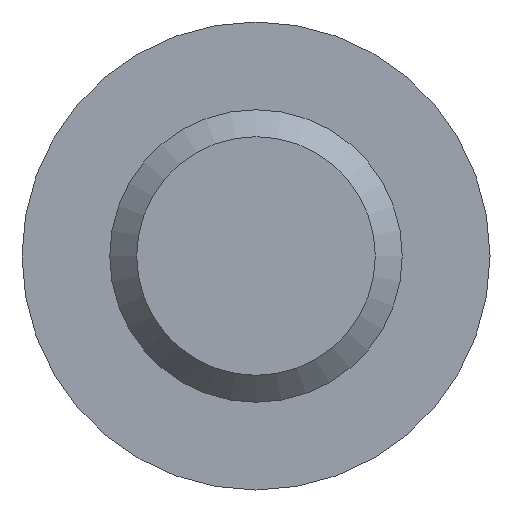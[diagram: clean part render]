
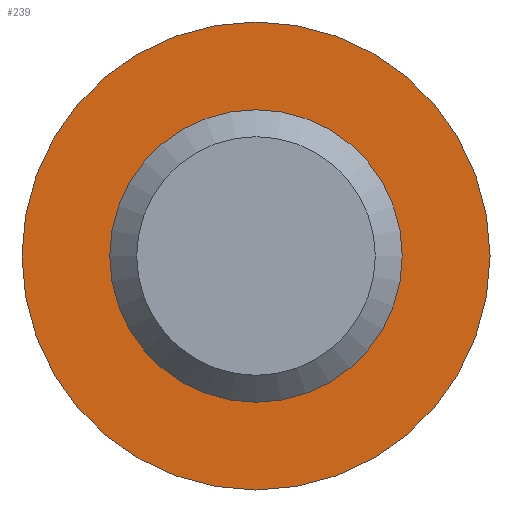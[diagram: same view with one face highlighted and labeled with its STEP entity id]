
A CAD part, front view. The second image highlights one B-rep face of the part: STEP entity #239.
In plain terms, the highlighted planar face has unit normal (0, -1, 0).
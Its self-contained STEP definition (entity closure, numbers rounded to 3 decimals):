
#23=FACE_BOUND('',#64,.T.);
#33=PLANE('',#282);
#48=FACE_OUTER_BOUND('',#63,.T.);
#63=EDGE_LOOP('',(#214));
#64=EDGE_LOOP('',(#215));
#100=CIRCLE('',#265,5.);
#106=CIRCLE('',#275,8.);
#109=VERTEX_POINT('',#356);
#120=VERTEX_POINT('',#384);
#133=EDGE_CURVE('',#109,#109,#100,.T.);
#146=EDGE_CURVE('',#120,#120,#106,.T.);
#214=ORIENTED_EDGE('',*,*,#146,.T.);
#215=ORIENTED_EDGE('',*,*,#133,.T.);
#239=ADVANCED_FACE('',(#48,#23),#33,.F.);
#265=AXIS2_PLACEMENT_3D('',#358,#296,#297);
#275=AXIS2_PLACEMENT_3D('',#386,#323,#324);
#282=AXIS2_PLACEMENT_3D('',#427,#343,#344);
#296=DIRECTION('center_axis',(0.,1.,0.));
#297=DIRECTION('ref_axis',(-1.,0.,0.));
#323=DIRECTION('center_axis',(0.,-1.,0.));
#324=DIRECTION('ref_axis',(1.,0.,0.));
#343=DIRECTION('center_axis',(0.,1.,0.));
#344=DIRECTION('ref_axis',(0.,0.,1.));
#356=CARTESIAN_POINT('',(5.,0.,0.));
#358=CARTESIAN_POINT('Origin',(0.,0.,0.));
#384=CARTESIAN_POINT('',(-8.,0.,0.));
#386=CARTESIAN_POINT('Origin',(0.,0.,0.));
#427=CARTESIAN_POINT('Origin',(0.,0.,0.));
